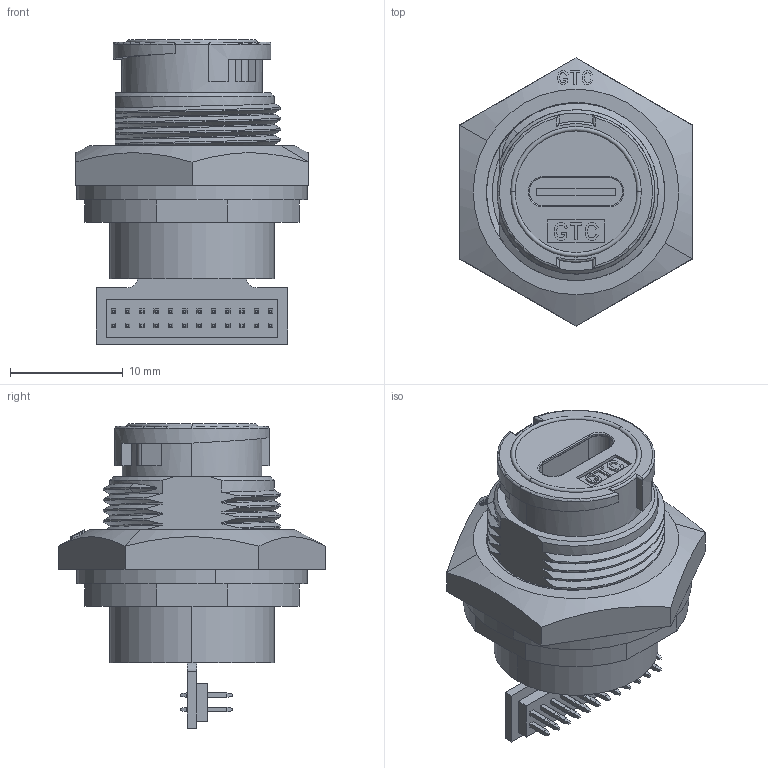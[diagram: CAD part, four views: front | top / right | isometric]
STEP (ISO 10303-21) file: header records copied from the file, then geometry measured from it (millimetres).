
FILE_DESCRIPTION (( 'STEP AP203' ), '1' );
FILE_NAME ('RR-11C200-20.STEP', '2025-02-14T06:13:22', ( '' ), ( '' ), 'SwSTEP 2.0', 'SolidWorks 2019', '' );
FILE_SCHEMA (( 'CONFIG_CONTROL_DESIGN' ));
Products named in the file (1): RR-11C200-20
Bounding box: 20.6 x 23.79 x 27 mm (x, y, z)
Volume: 4676 mm3; surface area: 5070.8 mm2
Topology: 4 solids, 5 shells, 906 faces, 2197 edges, 1391 vertices
Faces by surface type: plane 728, cylinder 129, bspline 33, torus 10, cone 6
Entity records: 35009 total; most frequent: CARTESIAN_POINT 14428, ORIENTED_EDGE 4394, DIRECTION 3853, EDGE_CURVE 2197, LINE 1643, VECTOR 1643, VERTEX_POINT 1391, AXIS2_PLACEMENT_3D 1105
